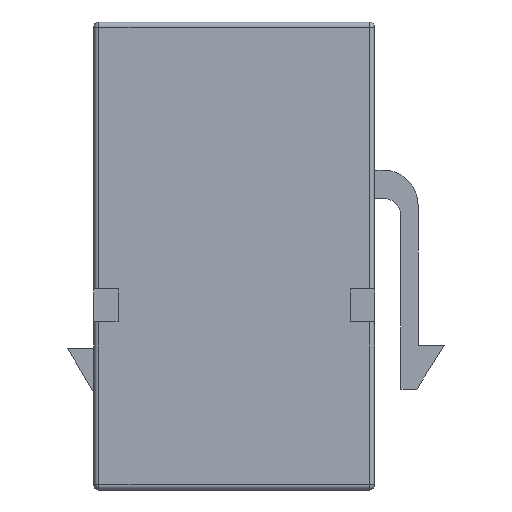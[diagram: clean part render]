
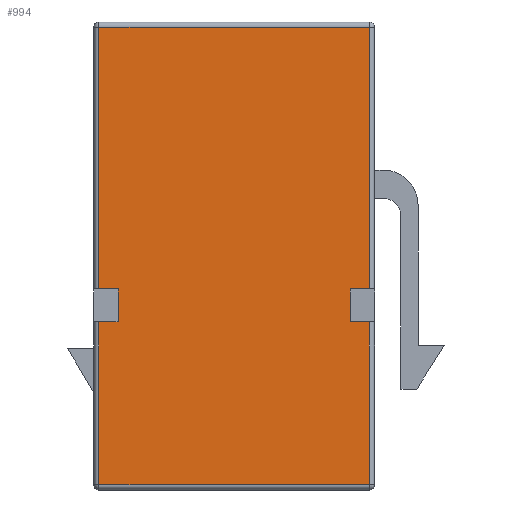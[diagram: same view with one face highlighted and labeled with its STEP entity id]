
A CAD part, left-side view. The second image highlights one B-rep face of the part: STEP entity #994.
In plain terms, the highlighted planar face has unit normal (-1, 0, 0).
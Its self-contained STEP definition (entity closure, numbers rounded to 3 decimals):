
#349 = VERTEX_POINT('',#350);
#350 = CARTESIAN_POINT('',(-7.25,-7.8,11.6));
#357 = EDGE_CURVE('',#349,#358,#360,.T.);
#358 = VERTEX_POINT('',#359);
#359 = CARTESIAN_POINT('',(-7.25,-7.8,26.7));
#360 = LINE('',#361,#362);
#361 = CARTESIAN_POINT('',(-7.25,-7.8,11.6));
#362 = VECTOR('',#363,1.);
#363 = DIRECTION('',(0.,0.,1.));
#381 = EDGE_CURVE('',#349,#382,#384,.T.);
#382 = VERTEX_POINT('',#383);
#383 = CARTESIAN_POINT('',(-7.25,-6.7,11.6));
#384 = LINE('',#385,#386);
#385 = CARTESIAN_POINT('',(-7.25,-8.1,11.6));
#386 = VECTOR('',#387,1.);
#387 = DIRECTION('',(0.,1.,0.));
#497 = VERTEX_POINT('',#498);
#498 = CARTESIAN_POINT('',(-7.25,-7.8,0.3));
#505 = EDGE_CURVE('',#497,#506,#508,.T.);
#506 = VERTEX_POINT('',#507);
#507 = CARTESIAN_POINT('',(-7.25,-7.8,9.7));
#508 = LINE('',#509,#510);
#509 = CARTESIAN_POINT('',(-7.25,-7.8,0.));
#510 = VECTOR('',#511,1.);
#511 = DIRECTION('',(0.,0.,1.));
#529 = EDGE_CURVE('',#530,#506,#532,.T.);
#530 = VERTEX_POINT('',#531);
#531 = CARTESIAN_POINT('',(-7.25,-6.7,9.7));
#532 = LINE('',#533,#534);
#533 = CARTESIAN_POINT('',(-7.25,-6.7,9.7));
#534 = VECTOR('',#535,1.);
#535 = DIRECTION('',(0.,-1.,0.));
#994 = ADVANCED_FACE('',(#995),#1061,.F.);
#995 = FACE_BOUND('',#996,.F.);
#996 = EDGE_LOOP('',(#997,#998,#999,#1007,#1015,#1023,#1031,#1039,#1047,
    #1053,#1054,#1055));
#997 = ORIENTED_EDGE('',*,*,#529,.T.);
#998 = ORIENTED_EDGE('',*,*,#505,.F.);
#999 = ORIENTED_EDGE('',*,*,#1000,.F.);
#1000 = EDGE_CURVE('',#1001,#497,#1003,.T.);
#1001 = VERTEX_POINT('',#1002);
#1002 = CARTESIAN_POINT('',(-7.25,7.8,0.3));
#1003 = LINE('',#1004,#1005);
#1004 = CARTESIAN_POINT('',(-7.25,8.1,0.3));
#1005 = VECTOR('',#1006,1.);
#1006 = DIRECTION('',(0.,-1.,0.));
#1007 = ORIENTED_EDGE('',*,*,#1008,.T.);
#1008 = EDGE_CURVE('',#1001,#1009,#1011,.T.);
#1009 = VERTEX_POINT('',#1010);
#1010 = CARTESIAN_POINT('',(-7.25,7.8,9.7));
#1011 = LINE('',#1012,#1013);
#1012 = CARTESIAN_POINT('',(-7.25,7.8,0.));
#1013 = VECTOR('',#1014,1.);
#1014 = DIRECTION('',(0.,0.,1.));
#1015 = ORIENTED_EDGE('',*,*,#1016,.T.);
#1016 = EDGE_CURVE('',#1009,#1017,#1019,.T.);
#1017 = VERTEX_POINT('',#1018);
#1018 = CARTESIAN_POINT('',(-7.25,6.7,9.7));
#1019 = LINE('',#1020,#1021);
#1020 = CARTESIAN_POINT('',(-7.25,8.1,9.7));
#1021 = VECTOR('',#1022,1.);
#1022 = DIRECTION('',(0.,-1.,0.));
#1023 = ORIENTED_EDGE('',*,*,#1024,.T.);
#1024 = EDGE_CURVE('',#1017,#1025,#1027,.T.);
#1025 = VERTEX_POINT('',#1026);
#1026 = CARTESIAN_POINT('',(-7.25,6.7,11.6));
#1027 = LINE('',#1028,#1029);
#1028 = CARTESIAN_POINT('',(-7.25,6.7,9.7));
#1029 = VECTOR('',#1030,1.);
#1030 = DIRECTION('',(0.,0.,1.));
#1031 = ORIENTED_EDGE('',*,*,#1032,.T.);
#1032 = EDGE_CURVE('',#1025,#1033,#1035,.T.);
#1033 = VERTEX_POINT('',#1034);
#1034 = CARTESIAN_POINT('',(-7.25,7.8,11.6));
#1035 = LINE('',#1036,#1037);
#1036 = CARTESIAN_POINT('',(-7.25,6.7,11.6));
#1037 = VECTOR('',#1038,1.);
#1038 = DIRECTION('',(0.,1.,0.));
#1039 = ORIENTED_EDGE('',*,*,#1040,.T.);
#1040 = EDGE_CURVE('',#1033,#1041,#1043,.T.);
#1041 = VERTEX_POINT('',#1042);
#1042 = CARTESIAN_POINT('',(-7.25,7.8,26.7));
#1043 = LINE('',#1044,#1045);
#1044 = CARTESIAN_POINT('',(-7.25,7.8,11.6));
#1045 = VECTOR('',#1046,1.);
#1046 = DIRECTION('',(0.,0.,1.));
#1047 = ORIENTED_EDGE('',*,*,#1048,.T.);
#1048 = EDGE_CURVE('',#1041,#358,#1049,.T.);
#1049 = LINE('',#1050,#1051);
#1050 = CARTESIAN_POINT('',(-7.25,8.1,26.7));
#1051 = VECTOR('',#1052,1.);
#1052 = DIRECTION('',(0.,-1.,0.));
#1053 = ORIENTED_EDGE('',*,*,#357,.F.);
#1054 = ORIENTED_EDGE('',*,*,#381,.T.);
#1055 = ORIENTED_EDGE('',*,*,#1056,.T.);
#1056 = EDGE_CURVE('',#382,#530,#1057,.T.);
#1057 = LINE('',#1058,#1059);
#1058 = CARTESIAN_POINT('',(-7.25,-6.7,11.6));
#1059 = VECTOR('',#1060,1.);
#1060 = DIRECTION('',(0.,0.,-1.));
#1061 = PLANE('',#1062);
#1062 = AXIS2_PLACEMENT_3D('',#1063,#1064,#1065);
#1063 = CARTESIAN_POINT('',(-7.25,8.1,0.));
#1064 = DIRECTION('',(1.,0.,0.));
#1065 = DIRECTION('',(0.,-1.,0.));
